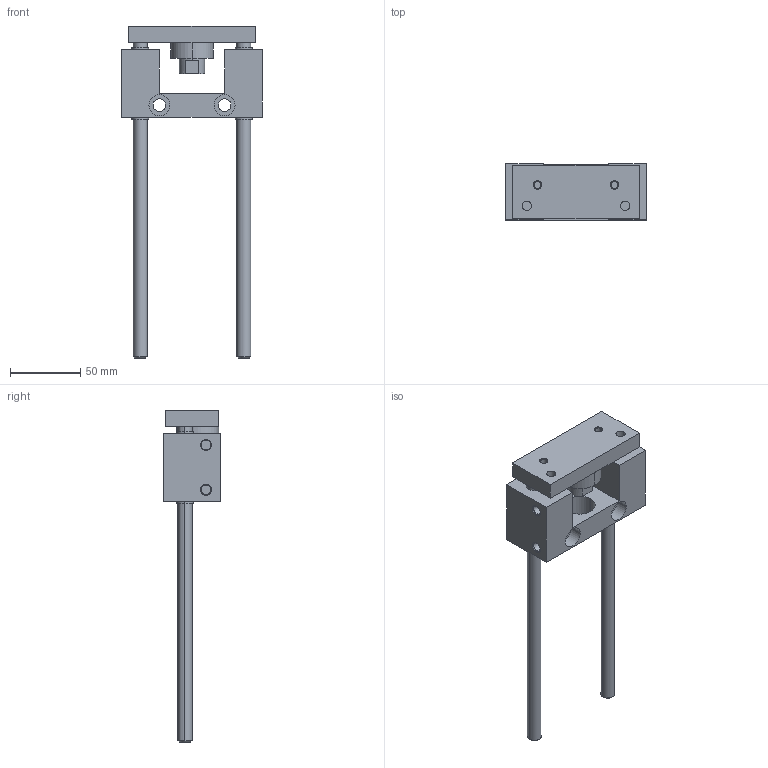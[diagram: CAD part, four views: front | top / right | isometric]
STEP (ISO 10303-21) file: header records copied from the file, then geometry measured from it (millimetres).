
FILE_DESCRIPTION((''),'2;1');
FILE_NAME('0821401072_ASM','2023-08-09T09:08:34',('THD3HC'),(''),'CREO PARAMETRIC BY PTC INC, 2020044','CREO PARAMETRIC BY PTC INC, 2020044','');
FILE_SCHEMA(('CONFIG_CONTROL_DESIGN','SHAPE_APPEARANCE_LAYERS_GROUPS'));
Length unit declared in the file: millimetre
Products named in the file (3): 0821401072-A; 0821401072-B; 0821401072_ASM
Assembly tree (2 placements, depth 2):
  0821401072_ASM
    0821401072-A
    0821401072-B
Bounding box: 100 x 40 x 237 mm (x, y, z)
Volume: 195624.7 mm3; surface area: 54562.1 mm2
Topology: 2 solids, 2 shells, 101 faces, 229 edges, 146 vertices
Faces by surface type: cylinder 48, plane 35, cone 18
Entity records: 4711 total; most frequent: DIRECTION 559, CARTESIAN_POINT 481, ORIENTED_EDGE 458, PRESENTATION_STYLE_ASSIGNMENT 315, STYLED_ITEM 231, CURVE_STYLE 229, EDGE_CURVE 229, AXIS2_PLACEMENT_3D 224
